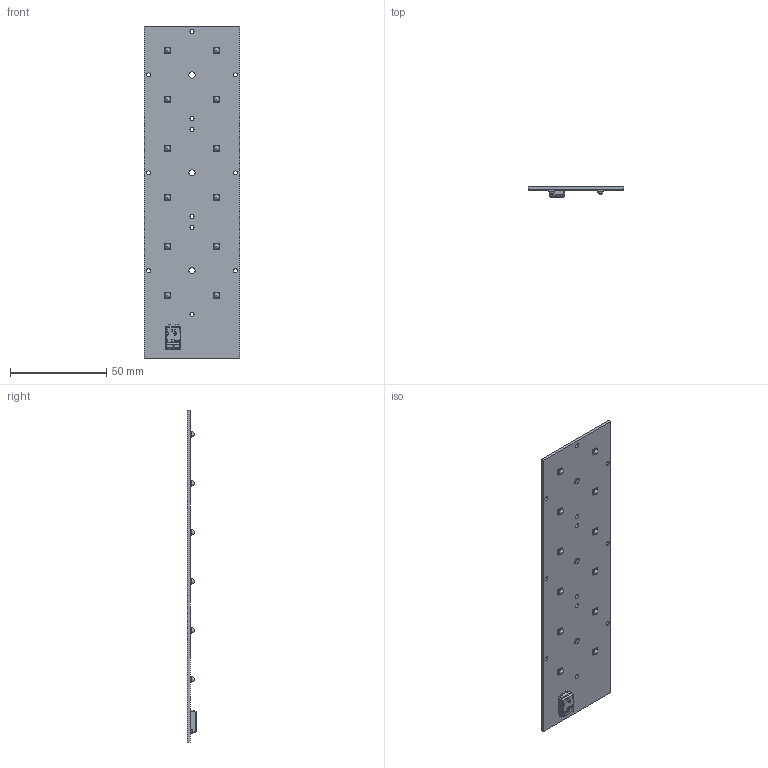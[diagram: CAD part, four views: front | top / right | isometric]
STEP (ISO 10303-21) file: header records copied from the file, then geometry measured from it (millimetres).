
FILE_DESCRIPTION(/* description */ ('Unknown'),/* implementation_level */ '2;1');
FILE_NAME(/* name */ '1010-117-28700 sh-000 2018-03-05',/* time_stamp */ '2018-03-05T08:12:29+01:00',/* author */ ('Unknown'),/* organization */ ('Unknown'),/* preprocessor_version */ 'ST-DEVELOPER v16.7',/* originating_system */ 'DEX',/* authorisation */ $);
FILE_SCHEMA (('AUTOMOTIVE_DESIGN {1 0 10303 214 3 1 1}'));
Length unit declared in the file: millimetre
Products named in the file (4): Z這瞠nie RecLED 173x50mm 2x6.par; PCB RecLED 173x50mm 2x6; LED Oslon Gen3; 4010-411-12610 Sh-000 2016-11-03
Assembly tree (14 placements, depth 2):
  Z這瞠nie RecLED 173x50mm 2x6.par
    PCB RecLED 173x50mm 2x6
    LED Oslon Gen3  x12
    4010-411-12610 Sh-000 2016-11-03
Bounding box: 49.5 x 4.95 x 172.2 mm (x, y, z)
Volume: 13071.9 mm3; surface area: 18512.5 mm2
Topology: 14 solids, 14 shells, 920 faces, 2351 edges, 1496 vertices
Faces by surface type: plane 433, cylinder 329, bspline 87, torus 35, cone 26, sphere 10
Full cylindrical faces by diameter (mm): 2.1 x12, 3.2 x3
Entity records: 19777 total; most frequent: CARTESIAN_POINT 5855, ORIENTED_EDGE 2338, DIRECTION 1898, EDGE_CURVE 1169, VERTEX_POINT 742, AXIS2_PLACEMENT_3D 661, LINE 576, VECTOR 576
